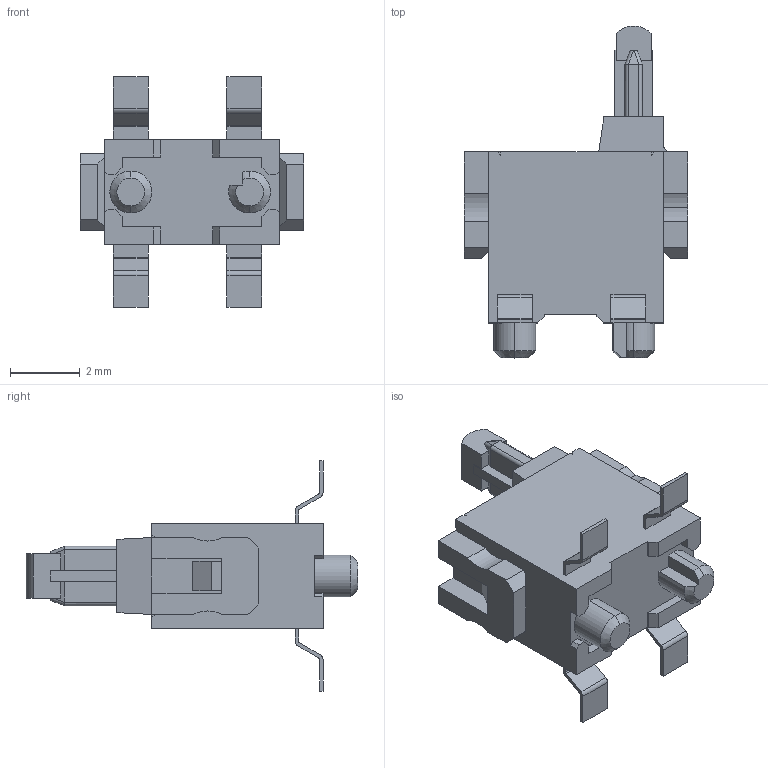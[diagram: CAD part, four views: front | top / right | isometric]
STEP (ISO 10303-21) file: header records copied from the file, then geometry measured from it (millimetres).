
FILE_DESCRIPTION (( 'STEP AP214' ), '1' );
FILE_NAME ('SPPB530601.STEP', '2011-06-10T06:01:08', ( '' ), ( '' ), 'SwSTEP 2.0', 'SolidWorks 2007', '' );
FILE_SCHEMA (( 'AUTOMOTIVE_DESIGN' ));
Length unit declared in the file: millimetre
Products named in the file (1): SPPB530601
Bounding box: 6.4 x 9.5 x 6.6 mm (x, y, z)
Volume: 86.5 mm3; surface area: 196.3 mm2
Topology: 1 solids, 1 shells, 243 faces, 693 edges, 458 vertices
Faces by surface type: plane 195, cylinder 43, cone 5
Entity records: 10508 total; most frequent: CARTESIAN_POINT 1471, ORIENTED_EDGE 1386, DIRECTION 1232, EDGE_CURVE 693, LINE 586, VECTOR 586, VERTEX_POINT 458, AXIS2_PLACEMENT_3D 323
